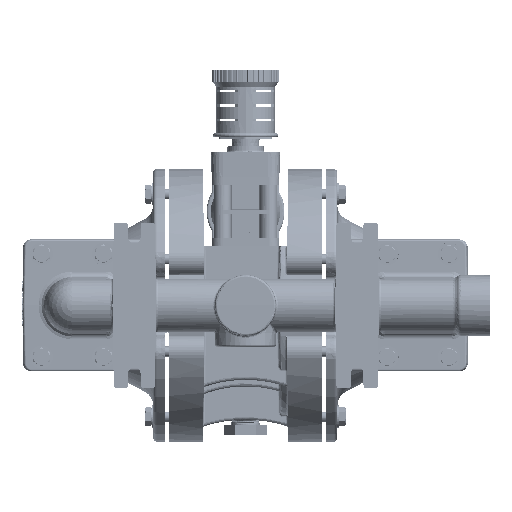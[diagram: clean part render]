
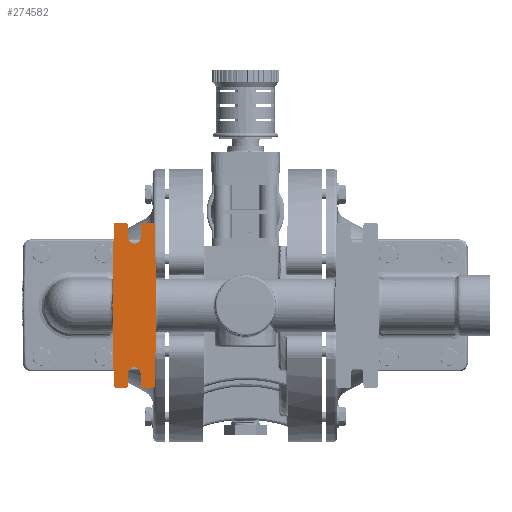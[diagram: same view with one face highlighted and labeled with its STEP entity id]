
A CAD part, front view. The second image highlights one B-rep face of the part: STEP entity #274582.
In plain terms, the highlighted planar face has unit normal (0, -1, 0).
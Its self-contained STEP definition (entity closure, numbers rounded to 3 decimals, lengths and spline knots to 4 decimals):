
#58689=DIRECTION('',(0.016,0.,-1.));
#58690=VECTOR('',#58689,2.4413);
#58691=CARTESIAN_POINT('',(-4.0331,-5.7,0.));
#58692=LINE('',#58691,#58690);
#58741=DIRECTION('',(-1.,0.,0.));
#58742=VECTOR('',#58741,0.3099);
#58743=CARTESIAN_POINT('',(-3.6247,-5.7,-2.5));
#58744=LINE('',#58743,#58742);
#58745=DIRECTION('',(0.016,0.,1.));
#58746=VECTOR('',#58745,2.4413);
#58747=CARTESIAN_POINT('',(-4.0331,-5.7,0.));
#58748=LINE('',#58747,#58746);
#58749=CARTESIAN_POINT('',(-3.9945,-5.7,2.4409));
#58750=CARTESIAN_POINT('',(-3.9942,-5.7,2.4606));
#58751=CARTESIAN_POINT('',(-3.979,-5.7,2.4852));
#58752=CARTESIAN_POINT('',(-3.9542,-5.7,2.5));
#58753=CARTESIAN_POINT('',(-3.9345,-5.7,2.5));
#58755=CARTESIAN_POINT('',(-3.6247,-5.7,2.44));
#58756=DIRECTION('',(0.,1.,0.));
#58757=DIRECTION('',(0.,0.,1.));
#58758=AXIS2_PLACEMENT_3D('',#58755,#58756,#58757);
#58760=DIRECTION('',(0.017,0.,-1.));
#58761=VECTOR('',#58760,0.3844);
#58762=CARTESIAN_POINT('',(-3.5647,-5.7,2.441));
#58763=LINE('',#58762,#58761);
#58764=CARTESIAN_POINT('',(-3.37,-5.7,2.06));
#58765=DIRECTION('',(0.,-1.,0.));
#58766=DIRECTION('',(-1.,0.,-0.017));
#58767=AXIS2_PLACEMENT_3D('',#58764,#58765,#58766);
#58769=DIRECTION('',(0.017,0.,1.));
#58770=VECTOR('',#58769,0.3844);
#58771=CARTESIAN_POINT('',(-3.182,-5.7,2.0567));
#58772=LINE('',#58771,#58770);
#58773=CARTESIAN_POINT('',(-3.1153,-5.7,2.44));
#58774=DIRECTION('',(0.,1.,0.));
#58775=DIRECTION('',(-1.,0.,0.017));
#58776=AXIS2_PLACEMENT_3D('',#58773,#58774,#58775);
#58778=DIRECTION('',(-0.016,0.,-1.));
#58779=VECTOR('',#58778,2.4413);
#58780=CARTESIAN_POINT('',(-2.7069,-5.7,0.));
#58781=LINE('',#58780,#58779);
#58782=CARTESIAN_POINT('',(-2.7455,-5.7,-2.4409));
#58783=CARTESIAN_POINT('',(-2.7458,-5.7,-2.4606));
#58784=CARTESIAN_POINT('',(-2.761,-5.7,-2.4852));
#58785=CARTESIAN_POINT('',(-2.7858,-5.7,-2.5));
#58786=CARTESIAN_POINT('',(-2.8055,-5.7,-2.5));
#58788=DIRECTION('',(-1.,0.,0.));
#58789=VECTOR('',#58788,0.3099);
#58790=CARTESIAN_POINT('',(-2.8055,-5.7,-2.5));
#58791=LINE('',#58790,#58789);
#58792=CARTESIAN_POINT('',(-3.1153,-5.7,-2.44));
#58793=DIRECTION('',(0.,1.,0.));
#58794=DIRECTION('',(0.,0.,-1.));
#58795=AXIS2_PLACEMENT_3D('',#58792,#58793,#58794);
#58797=DIRECTION('',(-0.017,0.,1.));
#58798=VECTOR('',#58797,0.3844);
#58799=CARTESIAN_POINT('',(-3.1753,-5.7,-2.441));
#58800=LINE('',#58799,#58798);
#58801=CARTESIAN_POINT('',(-3.37,-5.7,-2.06));
#58802=DIRECTION('',(0.,-1.,0.));
#58803=DIRECTION('',(1.,0.,0.017));
#58804=AXIS2_PLACEMENT_3D('',#58801,#58802,#58803);
#58806=DIRECTION('',(-0.017,0.,-1.));
#58807=VECTOR('',#58806,0.3844);
#58808=CARTESIAN_POINT('',(-3.558,-5.7,-2.0567));
#58809=LINE('',#58808,#58807);
#58810=CARTESIAN_POINT('',(-3.6247,-5.7,-2.44));
#58811=DIRECTION('',(0.,1.,0.));
#58812=DIRECTION('',(1.,0.,-0.017));
#58813=AXIS2_PLACEMENT_3D('',#58810,#58811,#58812);
#58911=DIRECTION('',(-0.016,0.,1.));
#58912=VECTOR('',#58911,2.4413);
#58913=CARTESIAN_POINT('',(-2.7069,-5.7,0.));
#58914=LINE('',#58913,#58912);
#58967=CARTESIAN_POINT('',(-2.7455,-5.7,2.4409));
#58968=CARTESIAN_POINT('',(-2.7458,-5.7,2.4606));
#58969=CARTESIAN_POINT('',(-2.761,-5.7,2.4852));
#58970=CARTESIAN_POINT('',(-2.7858,-5.7,2.5));
#58971=CARTESIAN_POINT('',(-2.8055,-5.7,2.5));
#58973=DIRECTION('',(-1.,0.,0.));
#58974=VECTOR('',#58973,0.3099);
#58975=CARTESIAN_POINT('',(-2.8055,-5.7,2.5));
#58976=LINE('',#58975,#58974);
#59021=DIRECTION('',(-1.,0.,0.));
#59022=VECTOR('',#59021,0.3099);
#59023=CARTESIAN_POINT('',(-3.6247,-5.7,2.5));
#59024=LINE('',#59023,#59022);
#116114=CARTESIAN_POINT('',(-3.9945,-5.7,-2.4409));
#116115=CARTESIAN_POINT('',(-3.9942,-5.7,-2.4606));
#116116=CARTESIAN_POINT('',(-3.979,-5.7,-2.4852));
#116117=CARTESIAN_POINT('',(-3.9542,-5.7,-2.5));
#116118=CARTESIAN_POINT('',(-3.9345,-5.7,-2.5));
#157838=CARTESIAN_POINT('',(-3.6247,-5.7,-2.5));
#157839=CARTESIAN_POINT('',(-3.9345,-5.7,-2.5));
#157840=VERTEX_POINT('',#157838);
#157841=VERTEX_POINT('',#157839);
#157842=VERTEX_POINT('',#116114);
#157843=CARTESIAN_POINT('',(-4.0331,-5.7,0.));
#157844=VERTEX_POINT('',#157843);
#157845=CARTESIAN_POINT('',(-3.9945,-5.7,2.4409));
#157846=VERTEX_POINT('',#157845);
#157847=VERTEX_POINT('',#58753);
#157848=CARTESIAN_POINT('',(-3.6247,-5.7,2.5));
#157849=VERTEX_POINT('',#157848);
#157850=CARTESIAN_POINT('',(-3.5647,-5.7,2.441));
#157851=VERTEX_POINT('',#157850);
#157852=CARTESIAN_POINT('',(-3.558,-5.7,2.0567));
#157853=VERTEX_POINT('',#157852);
#157854=CARTESIAN_POINT('',(-3.182,-5.7,2.0567));
#157855=VERTEX_POINT('',#157854);
#157856=CARTESIAN_POINT('',(-3.1753,-5.7,2.441));
#157857=VERTEX_POINT('',#157856);
#157858=CARTESIAN_POINT('',(-3.1153,-5.7,2.5));
#157859=VERTEX_POINT('',#157858);
#157860=CARTESIAN_POINT('',(-2.8055,-5.7,2.5));
#157861=VERTEX_POINT('',#157860);
#157862=VERTEX_POINT('',#58967);
#157863=CARTESIAN_POINT('',(-2.7069,-5.7,0.));
#157864=VERTEX_POINT('',#157863);
#157865=CARTESIAN_POINT('',(-2.7455,-5.7,-2.4409));
#157866=VERTEX_POINT('',#157865);
#157867=VERTEX_POINT('',#58786);
#157868=CARTESIAN_POINT('',(-3.1153,-5.7,-2.5));
#157869=VERTEX_POINT('',#157868);
#157870=CARTESIAN_POINT('',(-3.1753,-5.7,-2.441));
#157871=VERTEX_POINT('',#157870);
#157872=CARTESIAN_POINT('',(-3.182,-5.7,-2.0567));
#157873=VERTEX_POINT('',#157872);
#157874=CARTESIAN_POINT('',(-3.558,-5.7,-2.0567));
#157875=VERTEX_POINT('',#157874);
#157876=CARTESIAN_POINT('',(-3.5647,-5.7,-2.441));
#157877=VERTEX_POINT('',#157876);
#274532=CARTESIAN_POINT('',(4.25,-5.7,2.5625));
#274533=DIRECTION('',(0.,1.,0.));
#274534=DIRECTION('',(-1.,0.,0.));
#274535=AXIS2_PLACEMENT_3D('',#274532,#274533,#274534);
#274536=PLANE('',#274535);
#274538=ORIENTED_EDGE('',*,*,#274537,.T.);
#274540=ORIENTED_EDGE('',*,*,#274539,.F.);
#274541=ORIENTED_EDGE('',*,*,#274516,.F.);
#274543=ORIENTED_EDGE('',*,*,#274542,.T.);
#274545=ORIENTED_EDGE('',*,*,#274544,.T.);
#274547=ORIENTED_EDGE('',*,*,#274546,.F.);
#274549=ORIENTED_EDGE('',*,*,#274548,.T.);
#274551=ORIENTED_EDGE('',*,*,#274550,.T.);
#274553=ORIENTED_EDGE('',*,*,#274552,.T.);
#274555=ORIENTED_EDGE('',*,*,#274554,.T.);
#274557=ORIENTED_EDGE('',*,*,#274556,.T.);
#274559=ORIENTED_EDGE('',*,*,#274558,.F.);
#274561=ORIENTED_EDGE('',*,*,#274560,.F.);
#274563=ORIENTED_EDGE('',*,*,#274562,.F.);
#274565=ORIENTED_EDGE('',*,*,#274564,.T.);
#274567=ORIENTED_EDGE('',*,*,#274566,.T.);
#274569=ORIENTED_EDGE('',*,*,#274568,.T.);
#274571=ORIENTED_EDGE('',*,*,#274570,.T.);
#274573=ORIENTED_EDGE('',*,*,#274572,.T.);
#274575=ORIENTED_EDGE('',*,*,#274574,.T.);
#274577=ORIENTED_EDGE('',*,*,#274576,.T.);
#274579=ORIENTED_EDGE('',*,*,#274578,.T.);
#274580=EDGE_LOOP('',(#274538,#274540,#274541,#274543,#274545,#274547,#274549,
#274551,#274553,#274555,#274557,#274559,#274561,#274563,#274565,#274567,#274569,
#274571,#274573,#274575,#274577,#274579));
#274581=FACE_OUTER_BOUND('',#274580,.F.);
#274582=ADVANCED_FACE('',(#274581),#274536,.F.);
#58754=B_SPLINE_CURVE_WITH_KNOTS('',3,(#58749,#58750,#58751,#58752,#58753),
.UNSPECIFIED.,.F.,.F.,(4,1,4),(0.,0.5,1.),.UNSPECIFIED.);
#58759=CIRCLE('',#58758,0.06);
#58768=CIRCLE('',#58767,0.188);
#58777=CIRCLE('',#58776,0.06);
#58787=B_SPLINE_CURVE_WITH_KNOTS('',3,(#58782,#58783,#58784,#58785,#58786),
.UNSPECIFIED.,.F.,.F.,(4,1,4),(0.,0.5,1.),.UNSPECIFIED.);
#58796=CIRCLE('',#58795,0.06);
#58805=CIRCLE('',#58804,0.188);
#58814=CIRCLE('',#58813,0.06);
#58972=B_SPLINE_CURVE_WITH_KNOTS('',3,(#58967,#58968,#58969,#58970,#58971),
.UNSPECIFIED.,.F.,.F.,(4,1,4),(0.,0.5,1.),.UNSPECIFIED.);
#116119=B_SPLINE_CURVE_WITH_KNOTS('',3,(#116114,#116115,#116116,#116117,
#116118),.UNSPECIFIED.,.F.,.F.,(4,1,4),(0.,0.5,1.),.UNSPECIFIED.);
#274516=EDGE_CURVE('',#157844,#157842,#58692,.T.);
#274537=EDGE_CURVE('',#157840,#157841,#58744,.T.);
#274539=EDGE_CURVE('',#157842,#157841,#116119,.T.);
#274542=EDGE_CURVE('',#157844,#157846,#58748,.T.);
#274544=EDGE_CURVE('',#157846,#157847,#58754,.T.);
#274546=EDGE_CURVE('',#157849,#157847,#59024,.T.);
#274548=EDGE_CURVE('',#157849,#157851,#58759,.T.);
#274550=EDGE_CURVE('',#157851,#157853,#58763,.T.);
#274552=EDGE_CURVE('',#157853,#157855,#58768,.T.);
#274554=EDGE_CURVE('',#157855,#157857,#58772,.T.);
#274556=EDGE_CURVE('',#157857,#157859,#58777,.T.);
#274558=EDGE_CURVE('',#157861,#157859,#58976,.T.);
#274560=EDGE_CURVE('',#157862,#157861,#58972,.T.);
#274562=EDGE_CURVE('',#157864,#157862,#58914,.T.);
#274564=EDGE_CURVE('',#157864,#157866,#58781,.T.);
#274566=EDGE_CURVE('',#157866,#157867,#58787,.T.);
#274568=EDGE_CURVE('',#157867,#157869,#58791,.T.);
#274570=EDGE_CURVE('',#157869,#157871,#58796,.T.);
#274572=EDGE_CURVE('',#157871,#157873,#58800,.T.);
#274574=EDGE_CURVE('',#157873,#157875,#58805,.T.);
#274576=EDGE_CURVE('',#157875,#157877,#58809,.T.);
#274578=EDGE_CURVE('',#157877,#157840,#58814,.T.);
